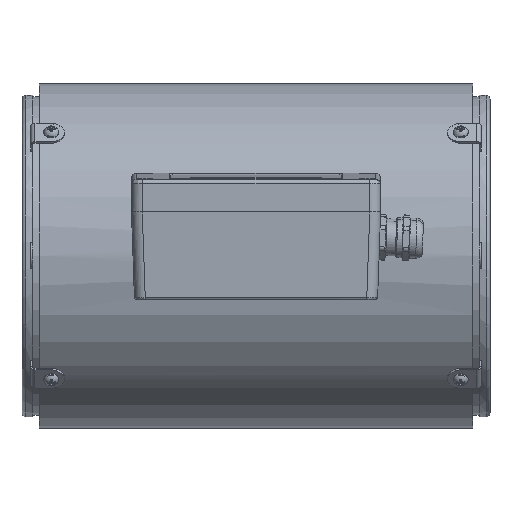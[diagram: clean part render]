
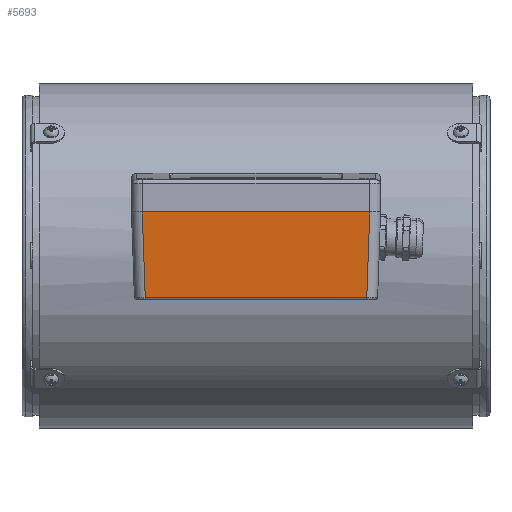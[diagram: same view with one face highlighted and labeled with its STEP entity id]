
A CAD part, top view. The second image highlights one B-rep face of the part: STEP entity #5693.
In plain terms, the highlighted planar face has unit normal (0, -0.07, 0.998).
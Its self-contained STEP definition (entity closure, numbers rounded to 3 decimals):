
#5693=ADVANCED_FACE('',(#14161),#14163,.T.);
#14161=FACE_BOUND('',#14162,.T.);
#14162=EDGE_LOOP('',(#27061,#27062,#27063,#27064,#27065,#27066));
#14163=PLANE('',#14164);
#14164=AXIS2_PLACEMENT_3D('',#14165,#14166,#14167);
#14165=CARTESIAN_POINT('',(-57.5,19.917,225.245));
#14166=DIRECTION('',(0.,-0.07,0.998));
#14167=DIRECTION('',(-1.,0.,0.));
#27061=ORIENTED_EDGE('',*,*,#30893,.F.);
#27062=ORIENTED_EDGE('',*,*,#30894,.T.);
#27063=ORIENTED_EDGE('',*,*,#30869,.F.);
#27064=ORIENTED_EDGE('',*,*,#30800,.F.);
#27065=ORIENTED_EDGE('',*,*,#30850,.F.);
#27066=ORIENTED_EDGE('',*,*,#30895,.T.);
#30800=EDGE_CURVE('',#34397,#34400,#34401,.T.);
#30850=EDGE_CURVE('',#34490,#34397,#34492,.T.);
#30869=EDGE_CURVE('',#34400,#34521,#34522,.T.);
#30893=EDGE_CURVE('',#34560,#34561,#34562,.F.);
#30894=EDGE_CURVE('',#34560,#34521,#34563,.T.);
#30895=EDGE_CURVE('',#34490,#34561,#34564,.T.);
#34397=VERTEX_POINT('',#44628);
#34400=VERTEX_POINT('',#44651);
#34401=LINE('',#44652,#44653);
#34490=VERTEX_POINT('',#44886);
#34492=LINE('',#44891,#44892);
#34521=VERTEX_POINT('',#44964);
#34522=LINE('',#44965,#44966);
#34560=VERTEX_POINT('',#45058);
#34561=VERTEX_POINT('',#45059);
#34562=LINE('',#45060,#45061);
#34563=LINE('',#45063,#45064);
#34564=LINE('',#45066,#45067);
#44628=CARTESIAN_POINT('',(51.122,-19.545,222.486));
#44651=CARTESIAN_POINT('',(-51.122,-19.545,222.486));
#44652=CARTESIAN_POINT('',(51.122,-19.545,222.486));
#44653=VECTOR('',#44654,1.);
#44654=DIRECTION('',(-1.,0.,0.));
#44886=CARTESIAN_POINT('',(52.503,19.917,225.245));
#44891=CARTESIAN_POINT('',(52.503,19.917,225.245));
#44892=VECTOR('',#44893,1.);
#44893=DIRECTION('',(-0.035,-0.997,-0.07));
#44964=CARTESIAN_POINT('',(-52.503,19.917,225.245));
#44965=CARTESIAN_POINT('',(-51.122,-19.545,222.486));
#44966=VECTOR('',#44967,1.);
#44967=DIRECTION('',(-0.035,0.997,0.07));
#45058=CARTESIAN_POINT('',(-52.501,19.917,225.245));
#45059=CARTESIAN_POINT('',(52.501,19.917,225.245));
#45060=CARTESIAN_POINT('',(52.501,19.917,225.245));
#45061=VECTOR('',#45062,1.);
#45062=DIRECTION('',(-1.,0.,0.));
#45063=CARTESIAN_POINT('',(-52.501,19.917,225.245));
#45064=VECTOR('',#45065,1.);
#45065=DIRECTION('',(-1.,0.,0.));
#45066=CARTESIAN_POINT('',(52.503,19.917,225.245));
#45067=VECTOR('',#45068,1.);
#45068=DIRECTION('',(-1.,0.,0.));
